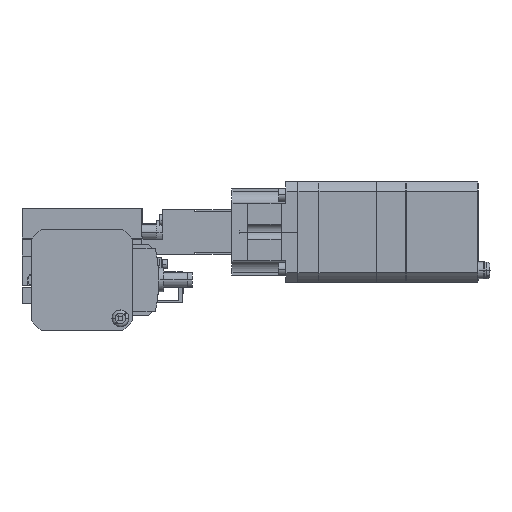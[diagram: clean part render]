
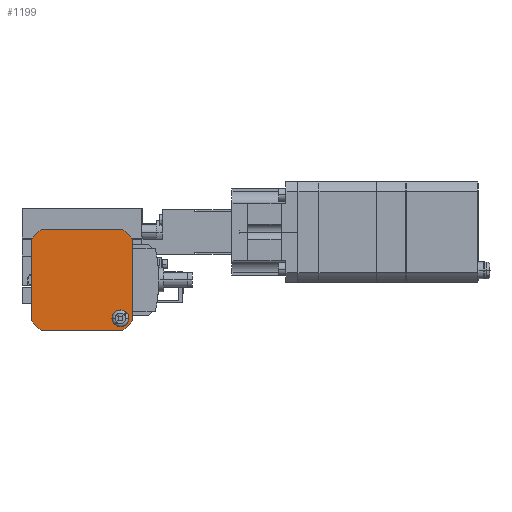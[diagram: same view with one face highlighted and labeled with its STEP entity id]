
A CAD part, left-side view. The second image highlights one B-rep face of the part: STEP entity #1199.
In plain terms, the highlighted planar face has unit normal (-1, 0, 0).
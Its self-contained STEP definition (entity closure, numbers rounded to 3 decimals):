
#1199=ADVANCED_FACE('',(#3342,#3343),#3344,.T.);
#3342=FACE_BOUND('',#6474,.T.);
#3343=FACE_OUTER_BOUND('',#6475,.T.);
#3344=PLANE('',#6476);
#6474=EDGE_LOOP('',(#13099,#13100));
#6475=EDGE_LOOP('',(#13101,#13102,#13103,#13104,#13105,#13106,#13107,#13108));
#6476=AXIS2_PLACEMENT_3D('',#13109,#13110,#13111);
#13099=ORIENTED_EDGE('',*,*,#21636,.F.);
#13100=ORIENTED_EDGE('',*,*,#21620,.F.);
#13101=ORIENTED_EDGE('',*,*,#21638,.T.);
#13102=ORIENTED_EDGE('',*,*,#21639,.T.);
#13103=ORIENTED_EDGE('',*,*,#21640,.T.);
#13104=ORIENTED_EDGE('',*,*,#21641,.T.);
#13105=ORIENTED_EDGE('',*,*,#21642,.T.);
#13106=ORIENTED_EDGE('',*,*,#21643,.T.);
#13107=ORIENTED_EDGE('',*,*,#21644,.T.);
#13108=ORIENTED_EDGE('',*,*,#21645,.T.);
#13109=CARTESIAN_POINT('',(-165.0,0.,10.));
#13110=DIRECTION('',(-1.0,0.,0.));
#13111=DIRECTION('',(0.,0.,-1.0));
#21620=EDGE_CURVE('',#26297,#26293,#26299,.T.);
#21636=EDGE_CURVE('',#26293,#26297,#26324,.T.);
#21638=EDGE_CURVE('',#26326,#26327,#26328,.T.);
#21639=EDGE_CURVE('',#26327,#26329,#26330,.T.);
#21640=EDGE_CURVE('',#26329,#26331,#26332,.T.);
#21641=EDGE_CURVE('',#26331,#26333,#26334,.T.);
#21642=EDGE_CURVE('',#26333,#26335,#26336,.T.);
#21643=EDGE_CURVE('',#26335,#26337,#26338,.T.);
#21644=EDGE_CURVE('',#26337,#26339,#26340,.T.);
#21645=EDGE_CURVE('',#26339,#26326,#26341,.T.);
#26293=VERTEX_POINT('',#33618);
#26297=VERTEX_POINT('',#33623);
#26299=CIRCLE('',#33626,3.5);
#26324=CIRCLE('',#33689,3.5);
#26326=VERTEX_POINT('',#33691);
#26327=VERTEX_POINT('',#33692);
#26328=LINE('',#33693,#33694);
#26329=VERTEX_POINT('',#33695);
#26330=CIRCLE('',#33696,27.);
#26331=VERTEX_POINT('',#33697);
#26332=LINE('',#33698,#33699);
#26333=VERTEX_POINT('',#33700);
#26334=CIRCLE('',#33701,27.);
#26335=VERTEX_POINT('',#33702);
#26336=LINE('',#33703,#33704);
#26337=VERTEX_POINT('',#33705);
#26338=CIRCLE('',#33706,27.);
#26339=VERTEX_POINT('',#33707);
#26340=LINE('',#33708,#33709);
#26341=CIRCLE('',#33710,27.0);
#33618=CARTESIAN_POINT('',(-165.,-12.5,-6.0));
#33623=CARTESIAN_POINT('',(-165.,-19.5,-6.0));
#33626=AXIS2_PLACEMENT_3D('',#41562,#41563,#41564);
#33689=AXIS2_PLACEMENT_3D('',#41589,#41590,#41591);
#33691=CARTESIAN_POINT('',(-165.,-21.,-6.971));
#33692=CARTESIAN_POINT('',(-165.,-21.,26.971));
#33693=CARTESIAN_POINT('',(-165.,-21.,-6.971));
#33694=VECTOR('',#41595,1000.0);
#33695=CARTESIAN_POINT('',(-165.,-16.971,31.0));
#33696=AXIS2_PLACEMENT_3D('',#41596,#41597,#41598);
#33697=CARTESIAN_POINT('',(-165.,16.971,31.0));
#33698=CARTESIAN_POINT('',(-165.,-16.971,31.0));
#33699=VECTOR('',#41599,1000.0);
#33700=CARTESIAN_POINT('',(-165.,21.,26.971));
#33701=AXIS2_PLACEMENT_3D('',#41600,#41601,#41602);
#33702=CARTESIAN_POINT('',(-165.,21.,-6.971));
#33703=CARTESIAN_POINT('',(-165.,21.,26.971));
#33704=VECTOR('',#41603,1000.0);
#33705=CARTESIAN_POINT('',(-165.,16.971,-11.0));
#33706=AXIS2_PLACEMENT_3D('',#41604,#41605,#41606);
#33707=CARTESIAN_POINT('',(-165.,-16.971,-11.0));
#33708=CARTESIAN_POINT('',(-165.,16.971,-11.0));
#33709=VECTOR('',#41607,1000.0);
#33710=AXIS2_PLACEMENT_3D('',#41608,#41609,#41610);
#41562=CARTESIAN_POINT('',(-165.,-16.,-6.0));
#41563=DIRECTION('',(-1.0,0.,0.));
#41564=DIRECTION('',(0.,1.0,0.));
#41589=CARTESIAN_POINT('',(-165.,-16.,-6.0));
#41590=DIRECTION('',(-1.0,0.,0.));
#41591=DIRECTION('',(0.,1.0,0.));
#41595=DIRECTION('',(0.,0.,1.0));
#41596=CARTESIAN_POINT('',(-165.0,0.,10.));
#41597=DIRECTION('',(-1.0,0.,0.));
#41598=DIRECTION('',(0.,1.0,0.));
#41599=DIRECTION('',(0.,1.0,0.));
#41600=CARTESIAN_POINT('',(-165.0,0.,10.));
#41601=DIRECTION('',(-1.0,0.,0.));
#41602=DIRECTION('',(0.,1.0,0.));
#41603=DIRECTION('',(0.,0.,-1.0));
#41604=CARTESIAN_POINT('',(-165.0,0.,10.));
#41605=DIRECTION('',(-1.0,0.,0.));
#41606=DIRECTION('',(0.,1.0,0.));
#41607=DIRECTION('',(0.,-1.0,0.));
#41608=CARTESIAN_POINT('',(-165.0,0.,10.));
#41609=DIRECTION('',(-1.0,0.,0.));
#41610=DIRECTION('',(0.,1.0,0.));
